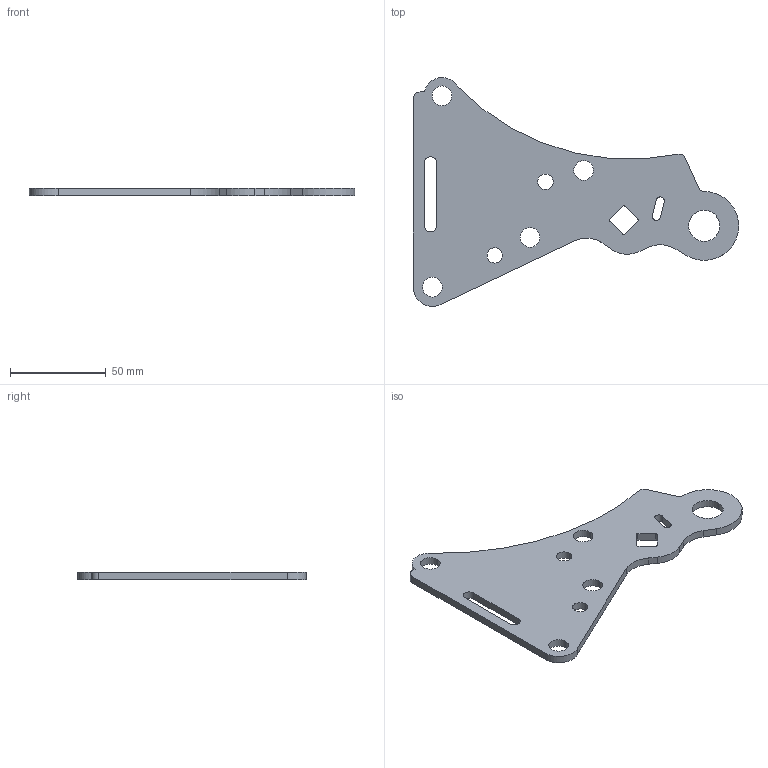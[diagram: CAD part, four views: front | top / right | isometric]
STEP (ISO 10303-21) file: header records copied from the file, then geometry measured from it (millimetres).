
FILE_DESCRIPTION (( 'STEP AP203' ), '1' );
FILE_NAME ('platine.STEP', '2016-09-27T09:42:33', ( '' ), ( '' ), 'SwSTEP 2.0', 'SolidWorks 2015', '' );
FILE_SCHEMA (( 'CONFIG_CONTROL_DESIGN' ));
Length unit declared in the file: millimetre
Products named in the file (1): platine
Bounding box: 170 x 119.43 x 4 mm (x, y, z)
Volume: 38910.2 mm3; surface area: 23043.6 mm2
Topology: 1 solids, 1 shells, 51 faces, 147 edges, 98 vertices
Faces by surface type: cylinder 34, plane 17
Entity records: 1826 total; most frequent: DIRECTION 319, CARTESIAN_POINT 297, ORIENTED_EDGE 294, EDGE_CURVE 147, AXIS2_PLACEMENT_3D 120, VERTEX_POINT 98, LINE 79, VECTOR 79
